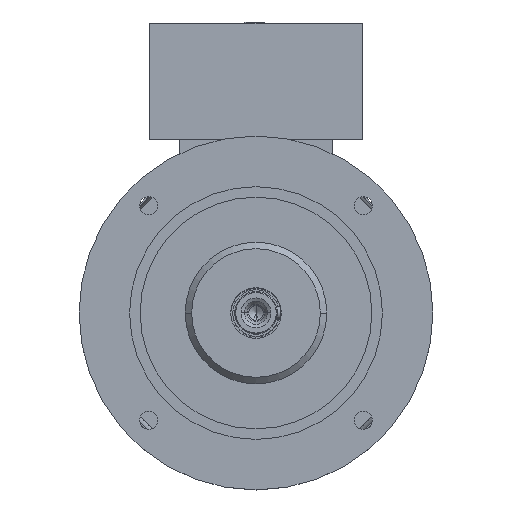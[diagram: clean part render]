
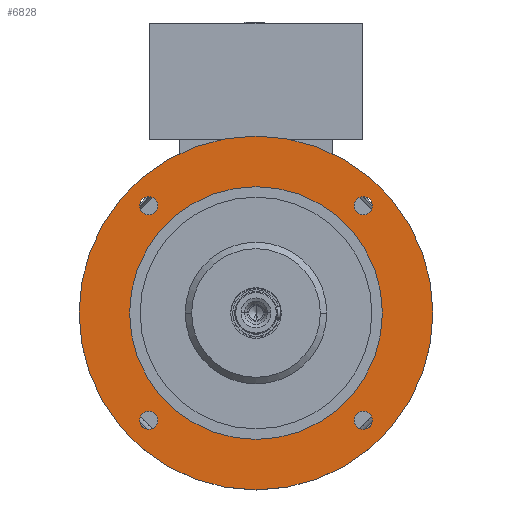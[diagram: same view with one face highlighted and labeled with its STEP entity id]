
A CAD part, top view. The second image highlights one B-rep face of the part: STEP entity #6828.
In plain terms, the highlighted planar face has unit normal (0, 0, 1).
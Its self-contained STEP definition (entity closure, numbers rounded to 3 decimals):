
#31 = CIRCLE ( 'NONE', #22274, 125. ) ;
#41 = DIRECTION ( 'NONE',  ( 0., 0., -1. ) ) ;
#164 = CIRCLE ( 'NONE', #10758, 9. ) ;
#175 = CARTESIAN_POINT ( 'NONE',  ( 115.066, -106.066, 235. ) ) ;
#395 = CARTESIAN_POINT ( 'NONE',  ( 0., 0., 235. ) ) ;
#503 = PLANE ( 'NONE',  #11781 ) ;
#732 = AXIS2_PLACEMENT_3D ( 'NONE', #9767, #13531, #15143 ) ;
#900 = CIRCLE ( 'NONE', #732, 175. ) ;
#1313 = CARTESIAN_POINT ( 'NONE',  ( 106.066, -106.066, 235. ) ) ;
#1451 = EDGE_LOOP ( 'NONE', ( #18326, #8292 ) ) ;
#1634 = AXIS2_PLACEMENT_3D ( 'NONE', #7475, #2224, #14349 ) ;
#1789 = AXIS2_PLACEMENT_3D ( 'NONE', #9741, #15042, #8053 ) ;
#1829 = VERTEX_POINT ( 'NONE', #8117 ) ;
#1864 = FACE_BOUND ( 'NONE', #1451, .T. ) ;
#1874 = EDGE_CURVE ( 'NONE', #22317, #4658, #19989, .T. ) ;
#2224 = DIRECTION ( 'NONE',  ( 0., 0., -1. ) ) ;
#2645 = DIRECTION ( 'NONE',  ( -1., 0., 0. ) ) ;
#3416 = DIRECTION ( 'NONE',  ( -1., 0., 0. ) ) ;
#3537 = VERTEX_POINT ( 'NONE', #11872 ) ;
#3819 = VERTEX_POINT ( 'NONE', #14611 ) ;
#4129 = CIRCLE ( 'NONE', #6719, 9. ) ;
#4324 = EDGE_LOOP ( 'NONE', ( #17188, #6159 ) ) ;
#4658 = VERTEX_POINT ( 'NONE', #15354 ) ;
#4683 = CIRCLE ( 'NONE', #10731, 175. ) ;
#4800 = VERTEX_POINT ( 'NONE', #19665 ) ;
#4874 = DIRECTION ( 'NONE',  ( 1., 0., 0. ) ) ;
#4904 = DIRECTION ( 'NONE',  ( 0., 0., -1. ) ) ;
#5029 = EDGE_CURVE ( 'NONE', #1829, #14718, #900, .T. ) ;
#5559 = EDGE_LOOP ( 'NONE', ( #18593, #22149 ) ) ;
#5588 = DIRECTION ( 'NONE',  ( 0., 0., -1. ) ) ;
#5775 = EDGE_CURVE ( 'NONE', #14718, #1829, #4683, .T. ) ;
#6112 = ORIENTED_EDGE ( 'NONE', *, *, #8710, .T. ) ;
#6159 = ORIENTED_EDGE ( 'NONE', *, *, #5029, .F. ) ;
#6578 = EDGE_LOOP ( 'NONE', ( #6112, #21836 ) ) ;
#6719 = AXIS2_PLACEMENT_3D ( 'NONE', #20175, #9682, #21841 ) ;
#6726 = DIRECTION ( 'NONE',  ( 0., 0., -1. ) ) ;
#6828 = ADVANCED_FACE ( 'NONE', ( #14218, #7874, #1864, #22391, #21854, #11761 ), #503, .T. ) ;
#7475 = CARTESIAN_POINT ( 'NONE',  ( 106.066, 106.066, 235. ) ) ;
#7874 = FACE_BOUND ( 'NONE', #6578, .T. ) ;
#8053 = DIRECTION ( 'NONE',  ( 1., 0., 0. ) ) ;
#8093 = DIRECTION ( 'NONE',  ( 1., 0., 0. ) ) ;
#8117 = CARTESIAN_POINT ( 'NONE',  ( 175., 0., 235. ) ) ;
#8292 = ORIENTED_EDGE ( 'NONE', *, *, #17679, .T. ) ;
#8433 = CIRCLE ( 'NONE', #1789, 9. ) ;
#8710 = EDGE_CURVE ( 'NONE', #21765, #10578, #15771, .T. ) ;
#8854 = EDGE_CURVE ( 'NONE', #18968, #3537, #17940, .T. ) ;
#9219 = DIRECTION ( 'NONE',  ( 1., 0., 0. ) ) ;
#9292 = CARTESIAN_POINT ( 'NONE',  ( 125., 0., 235. ) ) ;
#9439 = AXIS2_PLACEMENT_3D ( 'NONE', #12376, #41, #3416 ) ;
#9682 = DIRECTION ( 'NONE',  ( 0., 0., -1. ) ) ;
#9741 = CARTESIAN_POINT ( 'NONE',  ( -106.066, 106.066, 235. ) ) ;
#9767 = CARTESIAN_POINT ( 'NONE',  ( 0., 0., 235. ) ) ;
#9955 = AXIS2_PLACEMENT_3D ( 'NONE', #22342, #6726, #13565 ) ;
#10243 = EDGE_CURVE ( 'NONE', #10578, #21765, #31, .T. ) ;
#10578 = VERTEX_POINT ( 'NONE', #9292 ) ;
#10731 = AXIS2_PLACEMENT_3D ( 'NONE', #395, #5588, #17861 ) ;
#10758 = AXIS2_PLACEMENT_3D ( 'NONE', #22035, #15092, #8093 ) ;
#10921 = DIRECTION ( 'NONE',  ( 0., 0., 1. ) ) ;
#10939 = EDGE_LOOP ( 'NONE', ( #20000, #13527 ) ) ;
#11008 = DIRECTION ( 'NONE',  ( 0., 0., -1. ) ) ;
#11034 = CARTESIAN_POINT ( 'NONE',  ( -97.066, -106.066, 235. ) ) ;
#11053 = EDGE_CURVE ( 'NONE', #4800, #12898, #21906, .T. ) ;
#11396 = CARTESIAN_POINT ( 'NONE',  ( 0., 0., 235. ) ) ;
#11678 = AXIS2_PLACEMENT_3D ( 'NONE', #12742, #11008, #19569 ) ;
#11761 = FACE_BOUND ( 'NONE', #5559, .T. ) ;
#11763 = EDGE_CURVE ( 'NONE', #4658, #22317, #8433, .T. ) ;
#11781 = AXIS2_PLACEMENT_3D ( 'NONE', #12810, #10921, #9219 ) ;
#11872 = CARTESIAN_POINT ( 'NONE',  ( -115.066, -106.066, 235. ) ) ;
#12376 = CARTESIAN_POINT ( 'NONE',  ( 0., 0., 235. ) ) ;
#12742 = CARTESIAN_POINT ( 'NONE',  ( -106.066, -106.066, 235. ) ) ;
#12810 = CARTESIAN_POINT ( 'NONE',  ( 0., 175., 235. ) ) ;
#12898 = VERTEX_POINT ( 'NONE', #13128 ) ;
#13128 = CARTESIAN_POINT ( 'NONE',  ( 97.066, 106.066, 235. ) ) ;
#13386 = DIRECTION ( 'NONE',  ( 0., 0., -1. ) ) ;
#13527 = ORIENTED_EDGE ( 'NONE', *, *, #19259, .T. ) ;
#13531 = DIRECTION ( 'NONE',  ( 0., 0., -1. ) ) ;
#13565 = DIRECTION ( 'NONE',  ( 1., 0., 0. ) ) ;
#13971 = AXIS2_PLACEMENT_3D ( 'NONE', #1313, #4904, #20601 ) ;
#14004 = EDGE_CURVE ( 'NONE', #3537, #18968, #164, .T. ) ;
#14218 = FACE_OUTER_BOUND ( 'NONE', #4324, .T. ) ;
#14349 = DIRECTION ( 'NONE',  ( 1., 0., 0. ) ) ;
#14383 = AXIS2_PLACEMENT_3D ( 'NONE', #15383, #13386, #4874 ) ;
#14611 = CARTESIAN_POINT ( 'NONE',  ( 97.066, -106.066, 235. ) ) ;
#14718 = VERTEX_POINT ( 'NONE', #17177 ) ;
#14871 = EDGE_LOOP ( 'NONE', ( #18837, #19487 ) ) ;
#15042 = DIRECTION ( 'NONE',  ( 0., 0., -1. ) ) ;
#15092 = DIRECTION ( 'NONE',  ( 0., 0., -1. ) ) ;
#15143 = DIRECTION ( 'NONE',  ( -1., 0., 0. ) ) ;
#15354 = CARTESIAN_POINT ( 'NONE',  ( -115.066, 106.066, 235. ) ) ;
#15383 = CARTESIAN_POINT ( 'NONE',  ( 106.066, 106.066, 235. ) ) ;
#15771 = CIRCLE ( 'NONE', #9439, 125. ) ;
#16951 = CARTESIAN_POINT ( 'NONE',  ( -97.066, 106.066, 235. ) ) ;
#17177 = CARTESIAN_POINT ( 'NONE',  ( -175., 0., 235. ) ) ;
#17188 = ORIENTED_EDGE ( 'NONE', *, *, #5775, .F. ) ;
#17679 = EDGE_CURVE ( 'NONE', #3819, #17836, #4129, .T. ) ;
#17836 = VERTEX_POINT ( 'NONE', #175 ) ;
#17861 = DIRECTION ( 'NONE',  ( -1., 0., 0. ) ) ;
#17940 = CIRCLE ( 'NONE', #11678, 9. ) ;
#17982 = CARTESIAN_POINT ( 'NONE',  ( -125., 0., 235. ) ) ;
#18326 = ORIENTED_EDGE ( 'NONE', *, *, #21359, .T. ) ;
#18593 = ORIENTED_EDGE ( 'NONE', *, *, #8854, .T. ) ;
#18837 = ORIENTED_EDGE ( 'NONE', *, *, #1874, .T. ) ;
#18968 = VERTEX_POINT ( 'NONE', #11034 ) ;
#19259 = EDGE_CURVE ( 'NONE', #12898, #4800, #22103, .T. ) ;
#19487 = ORIENTED_EDGE ( 'NONE', *, *, #11763, .T. ) ;
#19569 = DIRECTION ( 'NONE',  ( 1., 0., 0. ) ) ;
#19665 = CARTESIAN_POINT ( 'NONE',  ( 115.066, 106.066, 235. ) ) ;
#19989 = CIRCLE ( 'NONE', #9955, 9. ) ;
#20000 = ORIENTED_EDGE ( 'NONE', *, *, #11053, .T. ) ;
#20175 = CARTESIAN_POINT ( 'NONE',  ( 106.066, -106.066, 235. ) ) ;
#20601 = DIRECTION ( 'NONE',  ( 1., 0., 0. ) ) ;
#20901 = CIRCLE ( 'NONE', #13971, 9. ) ;
#21359 = EDGE_CURVE ( 'NONE', #17836, #3819, #20901, .T. ) ;
#21765 = VERTEX_POINT ( 'NONE', #17982 ) ;
#21836 = ORIENTED_EDGE ( 'NONE', *, *, #10243, .T. ) ;
#21841 = DIRECTION ( 'NONE',  ( 1., 0., 0. ) ) ;
#21853 = DIRECTION ( 'NONE',  ( 0., 0., -1. ) ) ;
#21854 = FACE_BOUND ( 'NONE', #14871, .T. ) ;
#21906 = CIRCLE ( 'NONE', #1634, 9. ) ;
#22035 = CARTESIAN_POINT ( 'NONE',  ( -106.066, -106.066, 235. ) ) ;
#22103 = CIRCLE ( 'NONE', #14383, 9. ) ;
#22149 = ORIENTED_EDGE ( 'NONE', *, *, #14004, .T. ) ;
#22274 = AXIS2_PLACEMENT_3D ( 'NONE', #11396, #21853, #2645 ) ;
#22317 = VERTEX_POINT ( 'NONE', #16951 ) ;
#22342 = CARTESIAN_POINT ( 'NONE',  ( -106.066, 106.066, 235. ) ) ;
#22391 = FACE_BOUND ( 'NONE', #10939, .T. ) ;
